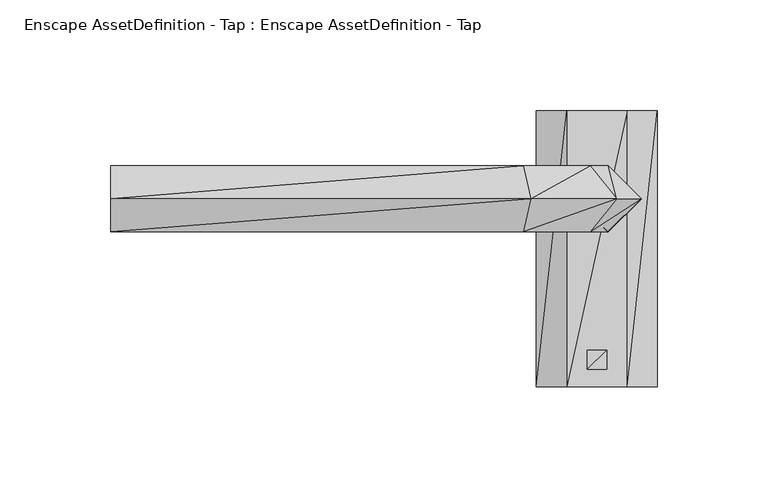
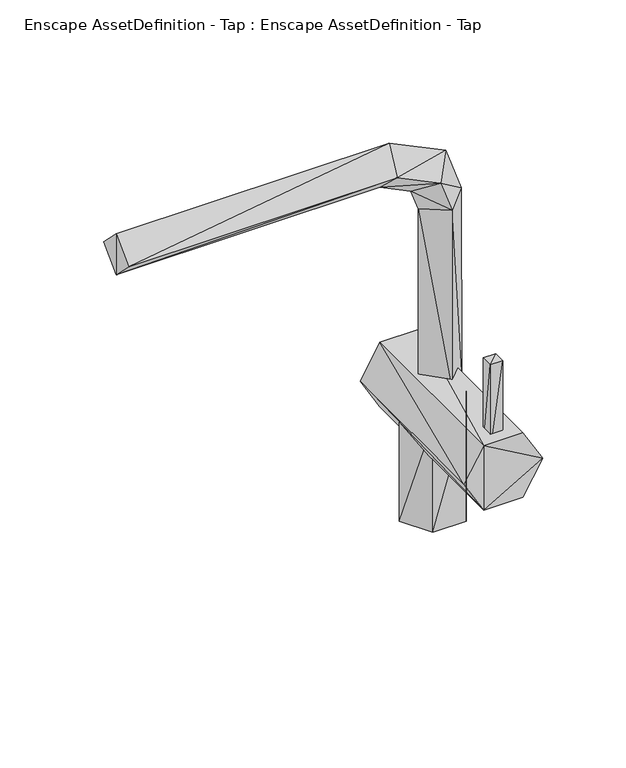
"""IFC4 building model written with IfcOpenShell, lengths in millimetres: geographic element geometry, Enscape AssetDefinition - Tap : Enscape AssetDefinition - Tap."""

import ifcopenshell
import ifcopenshell.guid

model = None  # the IFC model being written
_history = None  # IfcOwnerHistory: only IFC2X3 demands one
_inside = {}  # id of a spatial element -> (the spatial element, [elements in it])
_under = {}  # id of a project, library or spatial element -> (it, [spatial elements below it])
_declared = {}  # id of a project -> (the project, [libraries it declares])
_typed = {}  # id of a type object -> (the type object, [elements of that type])
_made_of = {}  # id of a material, layer set ... -> (it, [elements and type objects made of it])


def new_model(schema):
    """Start an empty IFC model of exactly this schema.

    Asked for "IFC4X3", IfcOpenShell would pick the latest addendum, in which some entities
    have other attributes; the version numbers below select the first issue.
    IFC2X3 requires an IfcOwnerHistory on every rooted entity: one is made here for all.
    """
    global model, _history
    if schema == "IFC4X3":
        model = ifcopenshell.file(schema_version=(4, 3, 0, 0))
    else:
        model = ifcopenshell.file(schema=schema)
    _inside.clear()
    _under.clear()
    _declared.clear()
    _typed.clear()
    _made_of.clear()
    _history = None
    if model.schema == "IFC2X3":
        org = make("IfcOrganization", Name="unknown")
        user = make(
            "IfcPersonAndOrganization",
            ThePerson=make("IfcPerson", FamilyName="unknown"),
            TheOrganization=org,
        )
        app = make(
            "IfcApplication",
            ApplicationDeveloper=org,
            Version="unknown",
            ApplicationFullName="unknown",
            ApplicationIdentifier="unknown",
        )
        _history = make(
            "IfcOwnerHistory",
            OwningUser=user,
            OwningApplication=app,
            ChangeAction="ADDED",
            CreationDate=0,
        )
    return model


def make(cls, **values):
    """One entity of the class cls with the attributes given. An attribute that is None is left unset."""
    return model.create_entity(
        cls, **{name: value for name, value in values.items() if value is not None}
    )


def rooted(cls, **values):
    """An entity with a GlobalId (a new one), such as an element, a storey or a relation."""
    return make(cls, GlobalId=ifcopenshell.guid.new(), OwnerHistory=_history, **values)


def si_unit(unit_type, name, prefix=None):
    """IfcSIUnit, for example si_unit("LENGTHUNIT", "METRE", prefix="MILLI")."""
    return make("IfcSIUnit", UnitType=unit_type, Prefix=prefix, Name=name)


def assignment(units):
    """IfcUnitAssignment: the units of a project."""
    return None if units is None else make("IfcUnitAssignment", Units=units)


def point(xyz):
    """IfcCartesianPoint."""
    return None if xyz is None else make("IfcCartesianPoint", Coordinates=xyz)


def direction(xyz):
    """IfcDirection."""
    return None if xyz is None else make("IfcDirection", DirectionRatios=xyz)


def frame(location, z_axis=None, x_axis=None):
    """IfcAxis2Placement3D, a coordinate frame: its origin and axes. An axis left out is left unset."""
    return make(
        "IfcAxis2Placement3D",
        Location=point(location),
        Axis=direction(z_axis),
        RefDirection=direction(x_axis),
    )


def origin():
    """The frame at (0, 0, 0) with its axes left unset."""
    return frame((0.0, 0.0, 0.0))


def place(relative_to, where):
    """IfcLocalPlacement: puts the frame where relative to a parent placement (None: the world)."""
    return make(
        "IfcLocalPlacement", PlacementRelTo=relative_to, RelativePlacement=where
    )


def context(
    kind, dimensions, precision=None, world=None, true_north=None, identifier=None
):
    """IfcGeometricRepresentationContext, for example the 3D "Model" context."""
    return make(
        "IfcGeometricRepresentationContext",
        ContextIdentifier=identifier,
        ContextType=kind,
        CoordinateSpaceDimension=dimensions,
        Precision=precision,
        WorldCoordinateSystem=world,
        TrueNorth=true_north,
    )


def project(units=None, contexts=None):
    """IfcProject with its units and contexts."""
    return rooted(
        "IfcProject",
        Name="project",
        RepresentationContexts=contexts,
        UnitsInContext=assignment(units),
    )


def spatial(cls, under=None, at=None, **own):
    """A site, building, storey or space (cls), placed at a placement, below another one or the project."""
    s = rooted(cls, ObjectPlacement=at, **own)
    if under is not None:
        _under.setdefault(under.id(), (under, []))[1].append(s)
    return s


def faces_of(points, faces, orient=None, outer=None):
    """IfcFace entities. A face is a list of loops; a loop is a list of indices into points, from 0.

    orient and outer hold one flag for each loop. By default every Orientation is true, the
    first loop of a face is its IfcFaceOuterBound and the others are IfcFaceBound.
    """
    made = []
    for i, loops in enumerate(faces):
        bounds = []
        for j, loop in enumerate(loops):
            is_outer = j == 0 if outer is None else outer[i][j]
            bounds.append(
                make(
                    "IfcFaceOuterBound" if is_outer else "IfcFaceBound",
                    Bound=make("IfcPolyLoop", Polygon=[points[k] for k in loop]),
                    Orientation=True if orient is None else orient[i][j],
                )
            )
        made.append(make("IfcFace", Bounds=bounds))
    return made


def faceted_brep(points, faces, orient=None, outer=None, voids=None):
    """IfcFacetedBrep: a solid bounded by flat faces; with voids (closed shells), ...WithVoids."""
    shared = [point(p) for p in points]
    hull = make("IfcClosedShell", CfsFaces=faces_of(shared, faces, orient, outer))
    if voids is None:
        return make("IfcFacetedBrep", Outer=hull)
    return make(
        "IfcFacetedBrepWithVoids",
        Outer=hull,
        Voids=[
            make(cls, CfsFaces=faces_of(shared, fs, o, b)) for cls, fs, o, b in voids
        ],
    )


def shape(context_of_items, identifier, shape_type, items):
    """IfcShapeRepresentation: the items that make up one representation, for example the "Body"."""
    return make(
        "IfcShapeRepresentation",
        ContextOfItems=context_of_items,
        RepresentationIdentifier=identifier,
        RepresentationType=shape_type,
        Items=items,
    )


def source(mapping_origin, context_of_items, identifier, shape_type, items):
    """IfcRepresentationMap: a shape defined once, which mapped items show again and again."""
    return make(
        "IfcRepresentationMap",
        MappingOrigin=mapping_origin,
        MappedRepresentation=shape(context_of_items, identifier, shape_type, items),
    )


def transform(
    local_origin,
    x_axis=None,
    y_axis=None,
    z_axis=None,
    scale=None,
    scale2=None,
    scale3=None,
    uniform=True,
):
    """IfcCartesianTransformationOperator3D, or its non-uniform kind. x_axis, y_axis, z_axis: its Axis1, 2, 3."""
    if uniform:
        return make(
            "IfcCartesianTransformationOperator3D",
            Axis1=direction(x_axis),
            Axis2=direction(y_axis),
            LocalOrigin=point(local_origin),
            Scale=scale,
            Axis3=direction(z_axis),
        )
    return make(
        "IfcCartesianTransformationOperator3DnonUniform",
        Axis1=direction(x_axis),
        Axis2=direction(y_axis),
        LocalOrigin=point(local_origin),
        Scale=scale,
        Axis3=direction(z_axis),
        Scale2=scale2,
        Scale3=scale3,
    )


def mapped(mapping_source, mapping_target):
    """IfcMappedItem: shows the shape of a source again, moved by a transform."""
    return make(
        "IfcMappedItem", MappingSource=mapping_source, MappingTarget=mapping_target
    )


def made_of(thing, what):
    """Note that an element or type object is made of a material, layer set ...; save() writes the relation."""
    if what is not None:
        _made_of.setdefault(what.id(), (what, []))[1].append(thing)
    return thing


def element(
    cls,
    number,
    at=None,
    inside=None,
    cuts=None,
    type_object=None,
    material=None,
    context=None,
    identifier="Body",
    shape_type=None,
    held_by="IfcProductDefinitionShape",
    body=None,
    shapes=None,
    **own,
):
    """One element of the class cls, such as IfcWall. Its Tag is "e" and its number.

    at: its placement. inside: the storey or other place that contains it. cuts: it is an
    opening in that element (IfcRelVoidsElement). A single representation is given by context,
    identifier, shape_type and body (its items); several are given by shapes. held_by: the class
    of the entity that holds the representations. save() writes the other relations.
    """
    e = rooted(cls, Tag="e%d" % number, ObjectPlacement=at, **own)
    if body is not None:
        shapes = [shape(context, identifier, shape_type, body)]
    if shapes is not None:
        e.Representation = make(held_by, Representations=shapes)
    if inside is not None:
        _inside.setdefault(inside.id(), (inside, []))[1].append(e)
    if cuts is not None:
        rooted(
            "IfcRelVoidsElement", RelatingBuildingElement=cuts, RelatedOpeningElement=e
        )
    if type_object is not None:
        _typed.setdefault(type_object.id(), (type_object, []))[1].append(e)
    return made_of(e, material)


def aggregate(whole, parts):
    """IfcRelAggregates: a whole, such as a stair, and the parts it consists of."""
    return rooted("IfcRelAggregates", RelatingObject=whole, RelatedObjects=parts)


def save(model, path):
    """Write the relations noted so far, then the file.

    IfcRelAggregates (storeys below a building ...), IfcRelContainedInSpatialStructure (elements
    in a storey), IfcRelDefinesByType, IfcRelAssociatesMaterial and IfcRelDeclares: one each for
    every whole, place, type object, material and project.
    """
    for whole, parts in _under.values():
        aggregate(whole, parts)
    for where, things in _inside.values():
        rooted(
            "IfcRelContainedInSpatialStructure",
            RelatedElements=things,
            RelatingStructure=where,
        )
    for kind, things in _typed.values():
        rooted("IfcRelDefinesByType", RelatedObjects=things, RelatingType=kind)
    for what, things in _made_of.values():
        rooted("IfcRelAssociatesMaterial", RelatedObjects=things, RelatingMaterial=what)
    for by, libraries in _declared.values():
        rooted("IfcRelDeclares", RelatingContext=by, RelatedDefinitions=libraries)
    model.write(path)


def enscape_assetdefinition_tap_enscape_assetdefinition_tap_beeff97c(model_context):
    return source(origin(), model_context, "Body", "Brep", [
        faceted_brep([(66.5870011, -14.9029987, 264.9900019), (-119.9999973, 0.14, 250.0039935), (63.1750003, 0.082, 250.0039935), (-119.9999973, 0.14, 279.974997), (-119.9999973, 15.1249999, 264.9900019), (-119.9999973, -14.8459999, 264.9900019), (70.0000003, 0.082, 279.974997), (109.0079919, 0.082, 261.2369955), (96.927993, -14.9029987, 250.4149973), (66.5870011, 15.0669999, 264.9900019), (84.8489925, 0.082, 239.5929843), (96.927993, 15.0669999, 250.4149973), (105.1659957, 15.1239987, 227.1579951), (119.9999973, 0.082, 229.9749851), (90.0310054, 0.195, 224.8550057), (104.8649922, -14.8459999, 227.6719958), (105.1659957, 14.8569997, 95.2490047), (119.9999973, -0.268, 95.2490047), (90.0310054, 0.033, 95.2490047), (104.8649922, -15.0919994, 95.2490047)], [[[0, 1, 2]], [[1, 3, 4]], [[1, 0, 5]], [[4, 2, 1]], [[3, 1, 5]], [[6, 5, 0]], [[7, 0, 8]], [[2, 8, 0]], [[0, 7, 6]], [[5, 6, 3]], [[9, 3, 6]], [[3, 9, 4]], [[2, 4, 9]], [[10, 9, 11]], [[6, 11, 9]], [[9, 10, 2]], [[11, 6, 7]], [[12, 7, 13]], [[8, 13, 7]], [[7, 12, 11]], [[14, 11, 12]], [[11, 14, 10]], [[8, 2, 10]], [[15, 10, 14]], [[10, 15, 8]], [[13, 8, 15]], [[16, 13, 17]], [[15, 17, 13]], [[13, 16, 12]], [[18, 12, 16]], [[12, 18, 14]], [[19, 14, 18]], [[14, 19, 15]], [[17, 15, 19]], [[16, 17, 18]], [[18, 17, 19]]]),
        faceted_brep([(127.3639947, 39.9999991, 79.9749941), (113.6820018, 39.9999991, 56.2769957), (86.3179937, 39.9999991, 56.2769957), (113.6820018, -85.0000009, 56.2769957), (127.3639947, -85.0000009, 79.9749941), (86.3179937, -85.0000009, 56.2769957), (86.3179937, 39.9999991, 103.6729962), (72.6360008, 39.9999991, 79.9749941), (113.6820018, -85.0000009, 103.6729962), (113.6820018, 39.9999991, 103.6729962), (86.3179937, -85.0000009, 103.6729962), (72.6360008, -85.0000009, 79.9749941)], [[[0, 1, 2]], [[3, 1, 4]], [[3, 2, 1]], [[4, 1, 0]], [[5, 2, 3]], [[6, 2, 7]], [[0, 2, 6]], [[5, 7, 2]], [[4, 0, 8]], [[0, 6, 9]], [[8, 0, 9]], [[10, 6, 11]], [[10, 9, 6]], [[11, 6, 7]], [[11, 7, 5]], [[5, 10, 11]], [[5, 3, 4]], [[5, 4, 10]], [[10, 4, 8]], [[8, 9, 10]]]),
        faceted_brep([(123.3370006, 0.0, -0.025), (111.6679907, -20.2099979, -0.025), (88.3320048, -20.2099979, -0.025), (111.6679907, -20.2099979, 79.0949985), (123.3370006, 0.0, 79.0949985), (88.3320048, -20.2099979, 79.0949985), (88.3320048, 20.2099979, -0.025), (76.6629949, 0.0, -0.025), (111.6679907, 20.2099979, 79.0949985), (111.6679907, 20.2099979, -0.025), (88.3320048, 20.2099979, 79.0949985), (76.6629949, 0.0, 79.0949985)], [[[0, 1, 2]], [[3, 1, 4]], [[3, 2, 1]], [[4, 1, 0]], [[5, 2, 3]], [[6, 2, 7]], [[0, 2, 6]], [[5, 7, 2]], [[4, 0, 8]], [[0, 6, 9]], [[8, 0, 9]], [[10, 6, 11]], [[10, 9, 6]], [[11, 6, 7]], [[11, 7, 5]], [[5, 10, 11]], [[5, 3, 4]], [[5, 4, 10]], [[10, 4, 8]], [[8, 9, 10]]]),
        faceted_brep([(104.3290049, -68.4209988, 90.741992), (95.6709906, -77.0789981, 90.741992), (95.6709906, -68.4209988, 90.741992), (104.3290049, -77.0789981, 154.974997), (104.3290049, -77.0789981, 90.741992), (95.6709906, -77.0789981, 154.974997), (95.6709906, -68.4209988, 154.974997), (104.3290049, -68.4209988, 154.974997)], [[[0, 1, 2]], [[3, 1, 4]], [[5, 2, 1]], [[1, 0, 4]], [[1, 3, 5]], [[6, 0, 2]], [[2, 5, 6]], [[7, 4, 0]], [[0, 6, 7]], [[4, 7, 3]], [[7, 5, 3]], [[5, 7, 6]]]),
    ])


if __name__ == "__main__":
    model = new_model("IFC4")
    model_context = context("Model", 3, world=origin())
    ifc_project = project(units=[si_unit("LENGTHUNIT", "METRE", prefix="MILLI")], contexts=[model_context])
    site = spatial("IfcSite", under=ifc_project)
    building = spatial("IfcBuilding", under=site)
    placement = place(None, origin())
    enscape_assetdefinition_tap_enscape_assetdefinition_tap_shape = enscape_assetdefinition_tap_enscape_assetdefinition_tap_beeff97c(model_context)
    element("IfcGeographicElement", 1, ObjectType="Enscape AssetDefinition - Tap : Enscape AssetDefinition - Tap", at=placement, inside=building, context=model_context, shape_type="MappedRepresentation", body=[
        mapped(enscape_assetdefinition_tap_enscape_assetdefinition_tap_shape, transform((0.0, 0.0, 0.0), x_axis=(1.0, 0.0, 0.0), y_axis=(0.0, 1.0, 0.0), z_axis=(0.0, 0.0, 1.0))),
    ])
    save(model, "model.ifc")
